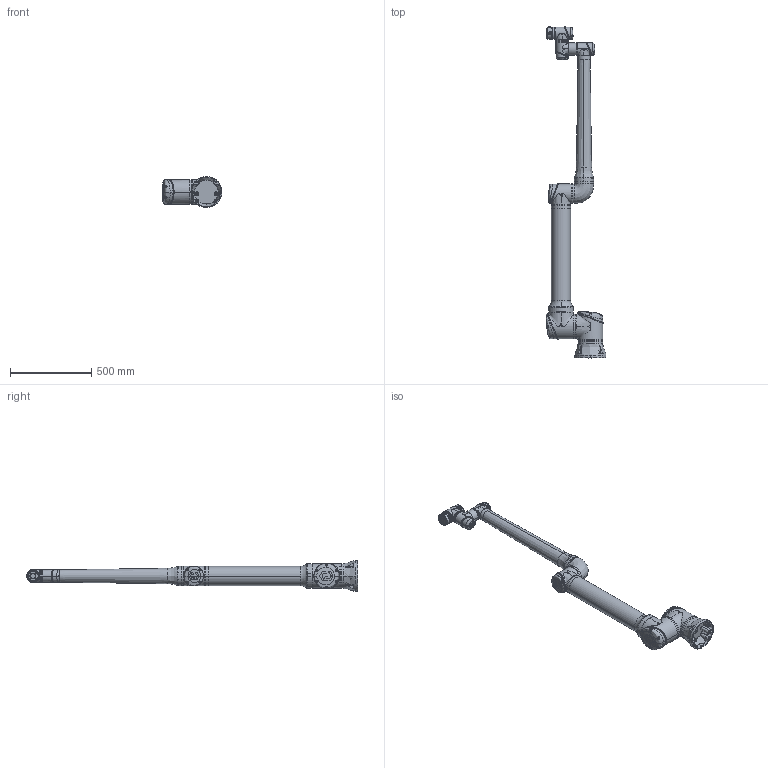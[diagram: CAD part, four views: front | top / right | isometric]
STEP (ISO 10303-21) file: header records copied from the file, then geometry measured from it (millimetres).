
FILE_DESCRIPTION (( 'STEP AP203' ), '1' );
FILE_NAME ('CS_掛极CS66-18_V1.1.STEP', '2025-12-31T01:37:33', ( '' ), ( '' ), 'SwSTEP 2.0', 'SolidWorks 2017', '' );
FILE_SCHEMA (( 'CONFIG_CONTROL_DESIGN' ));
Length unit declared in the file: millimetre
Products named in the file (8): CS612-J1; CS66-J5; CS612-Base; CS612-J2_Link1_J3; CS66-J6; CS_掛极CS66-18_V1.1; C66-18LINK3; CS66-Flange
Assembly tree (7 placements, depth 2):
  CS_掛极CS66-18_V1.1
    CS612-Base
    CS612-J1
    CS612-J2_Link1_J3
    CS66-J6
    C66-18LINK3
    CS66-J5
    CS66-Flange
Bounding box: 366.86 x 2037.2 x 189.7 mm (x, y, z)
Volume: 25643406.1 mm3; surface area: 1532354.2 mm2
Topology: 78 solids, 86 shells, 5265 faces, 12668 edges, 7655 vertices
Faces by surface type: bspline 2190, plane 1345, cylinder 946, cone 377, torus 229, sphere 178
Entity records: 581522 total; most frequent: CARTESIAN_POINT 476410, ORIENTED_EDGE 24936, DIRECTION 17324, EDGE_CURVE 12468, VERTEX_POINT 7631, AXIS2_PLACEMENT_3D 7293, EDGE_LOOP 5635, ADVANCED_FACE 5265
